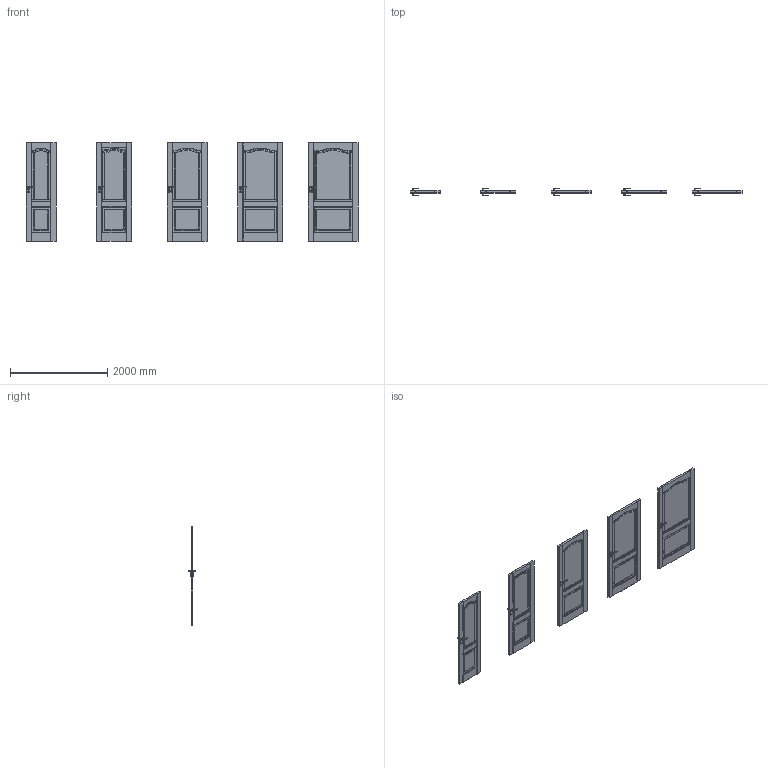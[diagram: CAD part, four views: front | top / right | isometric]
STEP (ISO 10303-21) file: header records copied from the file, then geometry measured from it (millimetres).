
FILE_DESCRIPTION(/* description */ (''),/* implementation_level */ '2;1');
FILE_NAME(/* name */ '050258_A_2-Skrzydło MADRYT model pełne_ polska norma _PN__ bezprzylgowe..stp',/* time_stamp */ '2025-01-30T10:11:25+01:00',/* author */ (''),/* organization */ (''),/* preprocessor_version */ 'ST-DEVELOPER v16',/* originating_system */ 'SIEMENS PLM Software NX 11.0',/* authorisation */ '');
FILE_SCHEMA (('AUTOMOTIVE_DESIGN { 1 0 10303 214 3 1 1 1 }'));
Products named in the file (1): bkni5BB8CBECw6uh
Bounding box: 6818 x 153.13 x 2017 mm (x, y, z)
Volume: 218397892 mm3; surface area: 24225516.9 mm2
Topology: 81 solids, 81 shells, 3863 faces, 9782 edges, 5898 vertices
Faces by surface type: plane 1682, cylinder 1187, bspline 854, sphere 140
Entity records: 132978 total; most frequent: CARTESIAN_POINT 49490, ORIENTED_EDGE 19284, DIRECTION 14060, EDGE_CURVE 9642, VERTEX_POINT 5898, LINE 5624, VECTOR 5624, AXIS2_PLACEMENT_3D 4218
